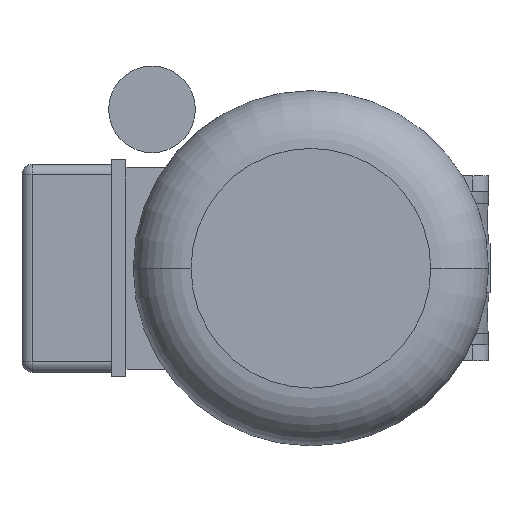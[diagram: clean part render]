
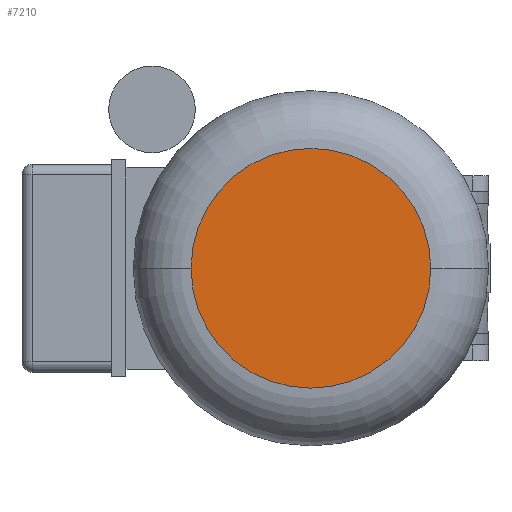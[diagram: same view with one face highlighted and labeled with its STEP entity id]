
A CAD part, left-side view. The second image highlights one B-rep face of the part: STEP entity #7210.
In plain terms, the highlighted planar face has unit normal (-1, 0, 0) as drawn and (0, 0, -1) by its records, which use the part's own axes.
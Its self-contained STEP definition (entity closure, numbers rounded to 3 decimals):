
#392 = DIRECTION ( 'NONE',  ( -1., 0., 0. ) ) ;
#2041 = AXIS2_PLACEMENT_3D ( 'NONE', #12936, #16854, #18779 ) ;
#2874 = CARTESIAN_POINT ( 'NONE',  ( 0., 0., -167.5 ) ) ;
#3888 = CARTESIAN_POINT ( 'NONE',  ( 0., 0., -167.5 ) ) ;
#4245 = AXIS2_PLACEMENT_3D ( 'NONE', #2874, #10390, #392 ) ;
#4587 = VERTEX_POINT ( 'NONE', #5847 ) ;
#5847 = CARTESIAN_POINT ( 'NONE',  ( 0., -41.5, -167.5 ) ) ;
#6020 = ORIENTED_EDGE ( 'NONE', *, *, #22409, .T. ) ;
#7210 = ADVANCED_FACE ( 'NONE', ( #17149 ), #19684, .T. ) ;
#7390 = DIRECTION ( 'NONE',  ( 0., 1., 0. ) ) ;
#8577 = EDGE_LOOP ( 'NONE', ( #6020, #23581 ) ) ;
#10390 = DIRECTION ( 'NONE',  ( 0., 0., -1. ) ) ;
#12936 = CARTESIAN_POINT ( 'NONE',  ( 0., 0., -167.5 ) ) ;
#13260 = CARTESIAN_POINT ( 'NONE',  ( 0., 41.5, -167.5 ) ) ;
#13537 = EDGE_CURVE ( 'NONE', #4587, #17979, #18107, .T. ) ;
#14931 = AXIS2_PLACEMENT_3D ( 'NONE', #3888, #19272, #7390 ) ;
#16854 = DIRECTION ( 'NONE',  ( 0., 0., -1. ) ) ;
#17149 = FACE_OUTER_BOUND ( 'NONE', #8577, .T. ) ;
#17979 = VERTEX_POINT ( 'NONE', #13260 ) ;
#18107 = CIRCLE ( 'NONE', #14931, 41.5 ) ;
#18779 = DIRECTION ( 'NONE',  ( 0., 1., 0. ) ) ;
#19272 = DIRECTION ( 'NONE',  ( 0., 0., -1. ) ) ;
#19684 = PLANE ( 'NONE',  #4245 ) ;
#22409 = EDGE_CURVE ( 'NONE', #17979, #4587, #24665, .T. ) ;
#23581 = ORIENTED_EDGE ( 'NONE', *, *, #13537, .T. ) ;
#24665 = CIRCLE ( 'NONE', #2041, 41.5 ) ;
